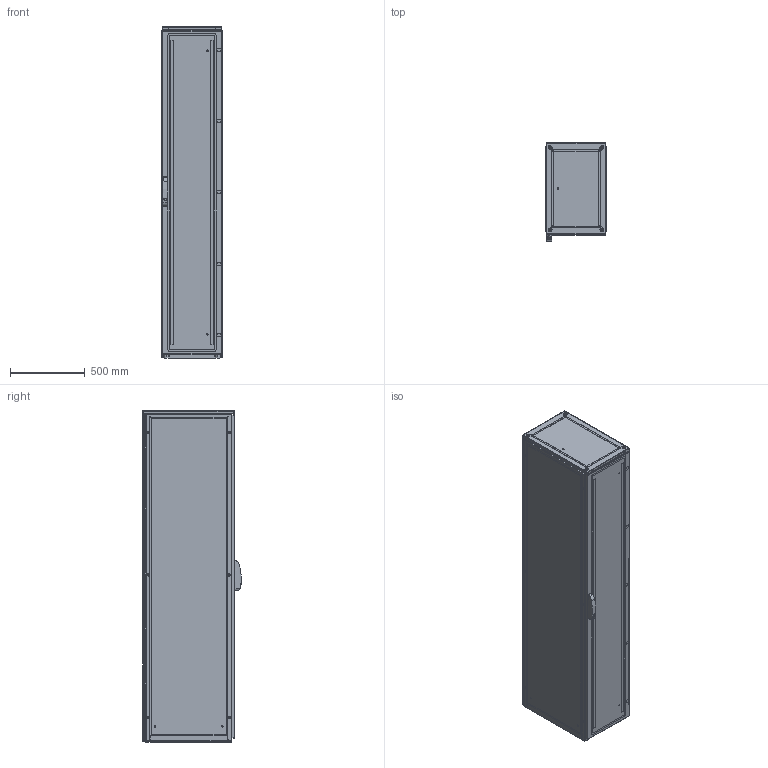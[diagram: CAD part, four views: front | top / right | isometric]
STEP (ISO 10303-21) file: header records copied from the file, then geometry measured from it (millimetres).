
FILE_DESCRIPTION(/* description */ ('STEP AP214'),/* implementation_level */ '2;1');
FILE_NAME(/* name */ 'ENUX042206PR-LOD350',/* time_stamp */ '2025-08-04T14:43:24+02:00',/* author */ ('License CC BY-ND 4.0'),/* organization */ ('CADENAS'),/* preprocessor_version */ 'ST-DEVELOPER v19.3',/* originating_system */ 'PARTsolutions',/* authorisation */ ' ');
FILE_SCHEMA (('AUTOMOTIVE_DESIGN {1 0 10303 214 3 1 1}'));
Length unit declared in the file: millimetre
Products named in the file (10): ENUX042206PR-LOD350; ENUX042206PR-LOD350_CON; ENUX042206PR-LOD350_floor1; ENUX042206PR-LOD350_floor2; Screw M12x30 architecture 350; ENUX042206PR-LOD350_side; ENUX042206PR-LOD350_top; ENUX042206PR-LOD350_back_door; ENUX042206PR-LOD350_door; ENUX042206PR-LOD350_handle
Assembly tree (16 placements, depth 2):
  ENUX042206PR-LOD350
    ENUX042206PR-LOD350_CON
    ENUX042206PR-LOD350_floor1  x2
    ENUX042206PR-LOD350_floor2  x3
    Screw M12x30 architecture 350  x4
    ENUX042206PR-LOD350_side  x2
    ENUX042206PR-LOD350_top
    ENUX042206PR-LOD350_back_door
    ENUX042206PR-LOD350_door
    ENUX042206PR-LOD350_handle
Bounding box: 412 x 657 x 2214.1 mm (x, y, z)
Volume: 17363374 mm3; surface area: 15497508.5 mm2
Topology: 16 solids, 16 shells, 1776 faces, 4985 edges, 3248 vertices
Faces by surface type: plane 890, cylinder 711, cone 83, torus 76, sphere 16
Full cylindrical faces by diameter (mm): 4.5 x120, 6 x14, 6.8 x8, 9 x9, 12 x16, 13 x4, 18 x1, 21 x4
Entity records: 46639 total; most frequent: CARTESIAN_POINT 8087, DIRECTION 8077, ORIENTED_EDGE 7584, EDGE_CURVE 3792, AXIS2_PLACEMENT_3D 2880, VERTEX_POINT 2649, LINE 2317, VECTOR 2317
